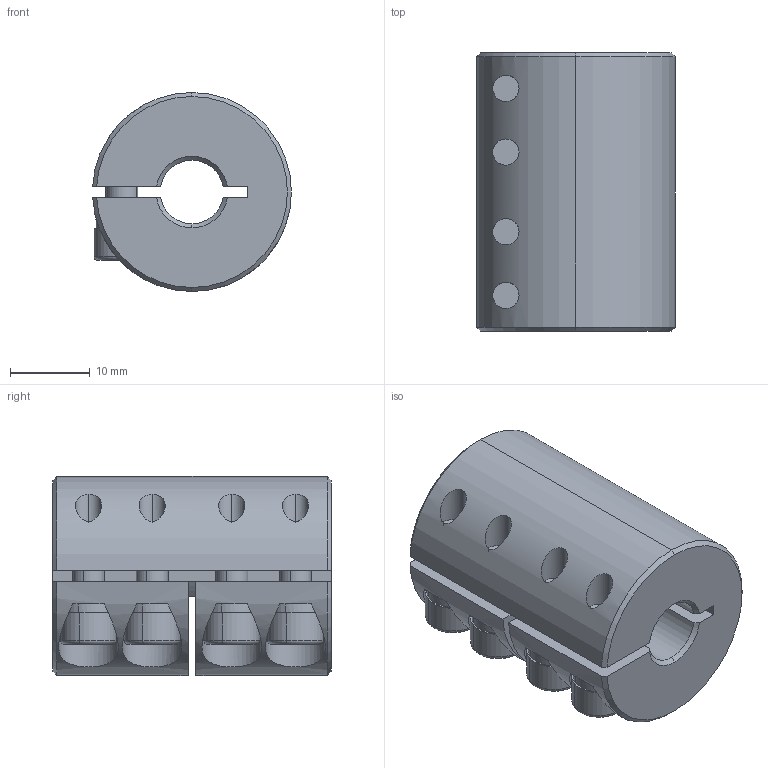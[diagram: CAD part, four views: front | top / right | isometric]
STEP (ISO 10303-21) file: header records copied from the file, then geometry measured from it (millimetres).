
FILE_DESCRIPTION (( 'STEP AP203' ), '1' );
FILE_NAME ('LL-B-D25L35-8-12.STEP', '2021-11-05T07:03:17', ( '' ), ( '' ), 'SwSTEP 2.0', 'SolidWorks 2018', '' );
FILE_SCHEMA (( 'CONFIG_CONTROL_DESIGN' ));
Length unit declared in the file: millimetre
Products named in the file (1): LL-B-D25L35-8-12
Bounding box: 24.98 x 35 x 25 mm (x, y, z)
Volume: 13291 mm3; surface area: 6905.3 mm2
Topology: 1 solids, 1 shells, 192 faces, 493 edges, 307 vertices
Faces by surface type: plane 92, cylinder 72, cone 20, torus 8
Entity records: 6313 total; most frequent: CARTESIAN_POINT 1497, DIRECTION 1042, ORIENTED_EDGE 970, EDGE_CURVE 485, AXIS2_PLACEMENT_3D 404, VERTEX_POINT 307, VECTOR 234, LINE 234
